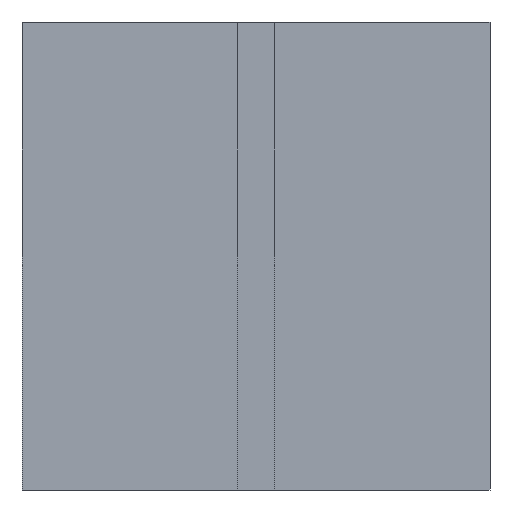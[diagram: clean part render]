
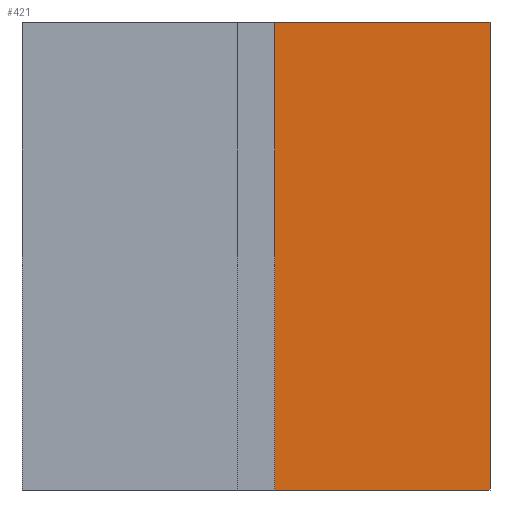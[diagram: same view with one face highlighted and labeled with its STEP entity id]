
A CAD part, front view. The second image highlights one B-rep face of the part: STEP entity #421.
In plain terms, the highlighted planar face has unit normal (0, -1, 0).
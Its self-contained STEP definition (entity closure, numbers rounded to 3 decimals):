
#35=FACE_OUTER_BOUND('',#57,.T.);
#57=EDGE_LOOP('',(#307,#308,#309,#310));
#88=LINE('',#646,#140);
#93=LINE('',#656,#145);
#94=LINE('',#658,#146);
#95=LINE('',#659,#147);
#140=VECTOR('',#526,25.);
#145=VECTOR('',#535,11.5);
#146=VECTOR('',#536,25.);
#147=VECTOR('',#537,11.5);
#191=VERTEX_POINT('',#643);
#192=VERTEX_POINT('',#645);
#195=VERTEX_POINT('',#655);
#196=VERTEX_POINT('',#657);
#236=EDGE_CURVE('',#192,#191,#88,.T.);
#241=EDGE_CURVE('',#191,#195,#93,.T.);
#242=EDGE_CURVE('',#195,#196,#94,.T.);
#243=EDGE_CURVE('',#196,#192,#95,.T.);
#307=ORIENTED_EDGE('',*,*,#236,.T.);
#308=ORIENTED_EDGE('',*,*,#241,.T.);
#309=ORIENTED_EDGE('',*,*,#242,.T.);
#310=ORIENTED_EDGE('',*,*,#243,.T.);
#401=PLANE('',#467);
#421=ADVANCED_FACE('',(#35),#401,.T.);
#467=AXIS2_PLACEMENT_3D('',#654,#533,#534);
#526=DIRECTION('',(0.,0.,-1.));
#533=DIRECTION('center_axis',(0.,-1.,0.));
#534=DIRECTION('ref_axis',(0.,0.,-1.));
#535=DIRECTION('',(1.,0.,0.));
#536=DIRECTION('',(0.,0.,1.));
#537=DIRECTION('',(-1.,0.,0.));
#643=CARTESIAN_POINT('',(13.5,0.,0.));
#645=CARTESIAN_POINT('',(13.5,0.,25.));
#646=CARTESIAN_POINT('',(13.5,0.,12.5));
#654=CARTESIAN_POINT('Origin',(25.,0.,0.));
#655=CARTESIAN_POINT('',(25.,0.,0.));
#656=CARTESIAN_POINT('',(0.,0.,0.));
#657=CARTESIAN_POINT('',(25.,0.,25.));
#658=CARTESIAN_POINT('',(25.,0.,0.));
#659=CARTESIAN_POINT('',(0.,0.,25.));
